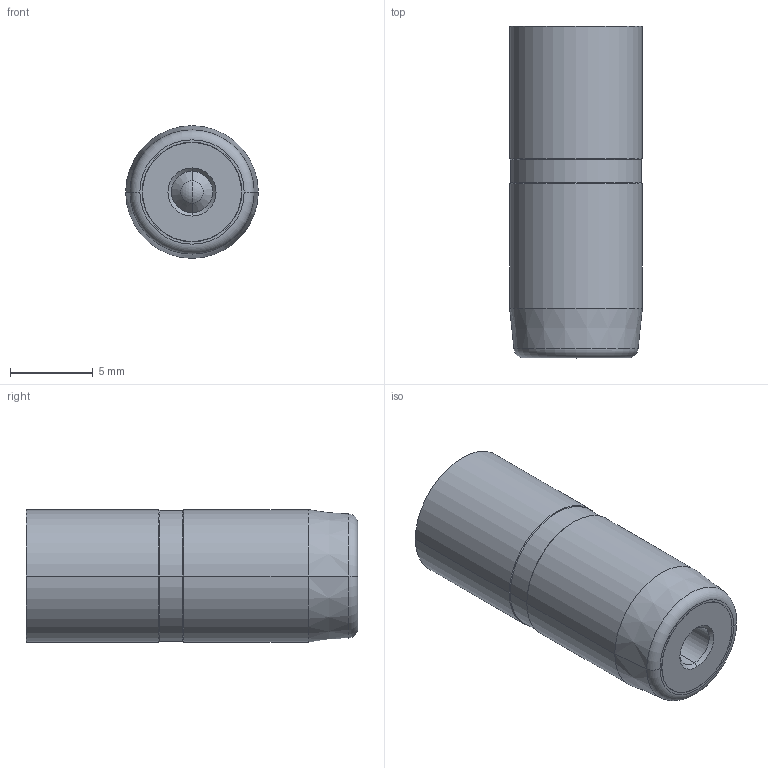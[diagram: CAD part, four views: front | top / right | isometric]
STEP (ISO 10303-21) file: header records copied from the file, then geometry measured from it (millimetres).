
FILE_DESCRIPTION (( 'STEP AP214' ), '1' );
FILE_NAME ('FP 0847SF.STEP', '2015-02-23T14:51:16', ( '' ), ( '' ), 'SwSTEP 2.0', 'SolidWorks 2014', '' );
FILE_SCHEMA (( 'AUTOMOTIVE_DESIGN' ));
Length unit declared in the file: millimetre
Products named in the file (6): FA 084700-2 comprimido; IA 4717SF; FP 0847SF; 9FP 084712; FA 084700-3; FP 084700-1
Assembly tree (5 placements, depth 2):
  FP 0847SF
    9FP 084712
    FP 084700-1
    IA 4717SF
    FA 084700-3
    FA 084700-2 comprimido
Bounding box: 8 x 20 x 8 mm (x, y, z)
Volume: 838.7 mm3; surface area: 1517.6 mm2
Topology: 5 solids, 5 shells, 316 faces, 790 edges, 511 vertices
Faces by surface type: plane 139, cylinder 133, cone 28, torus 12, sphere 2, bspline 2
Entity records: 11156 total; most frequent: CARTESIAN_POINT 3083, DIRECTION 1716, ORIENTED_EDGE 1580, EDGE_CURVE 790, AXIS2_PLACEMENT_3D 640, VERTEX_POINT 511, VECTOR 436, LINE 436
